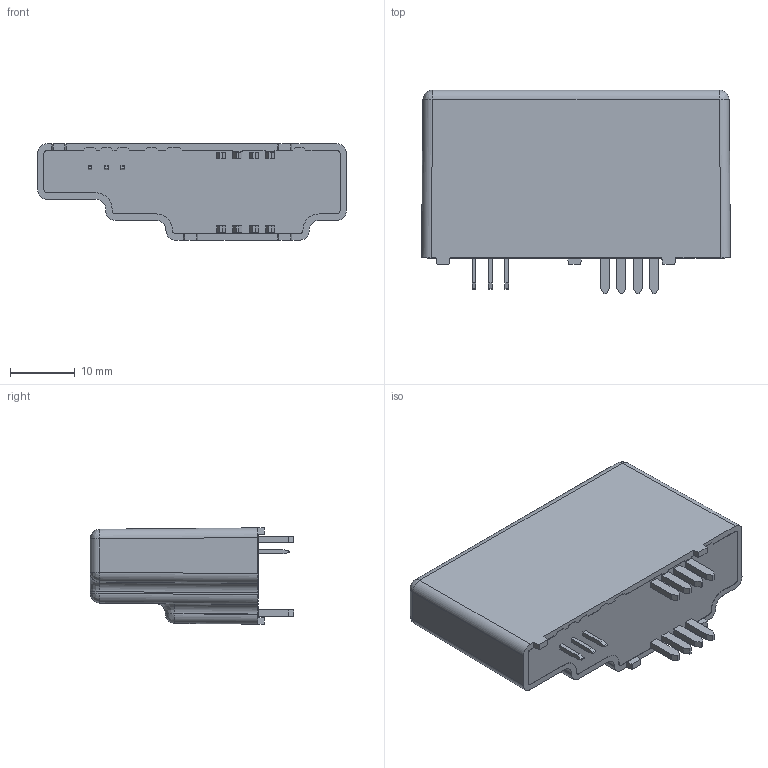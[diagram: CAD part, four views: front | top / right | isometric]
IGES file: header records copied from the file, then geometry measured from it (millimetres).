
Start section: Elysium IGES Interface
Global section: file name: C:\Users\pmo\Desktop\LAH 125_P.igs; native system: PTC Creo Elements/Direct Modeling 19.0E  27-Jun-2016; preprocessor: Creo Element/Direct IGES_3D V2.2; author: Unknown; organization: Unknown; date: 20180202.103306; units: millimetre
Bounding box: 47.9 x 31.6 x 14.95 mm (x, y, z)
Volume: 14488.4 mm3; surface area: 4365.6 mm2
Topology: 1 solids, 1 shells, 193 faces, 512 edges, 325 vertices
Faces by surface type: bspline 193
